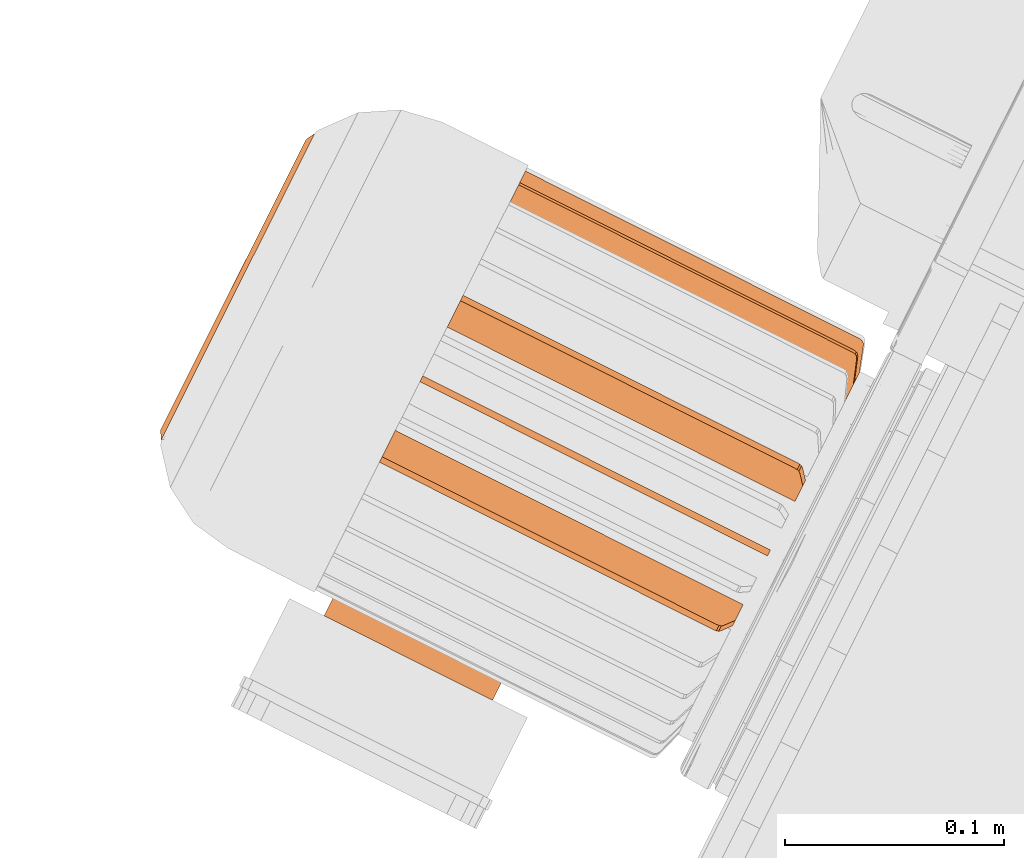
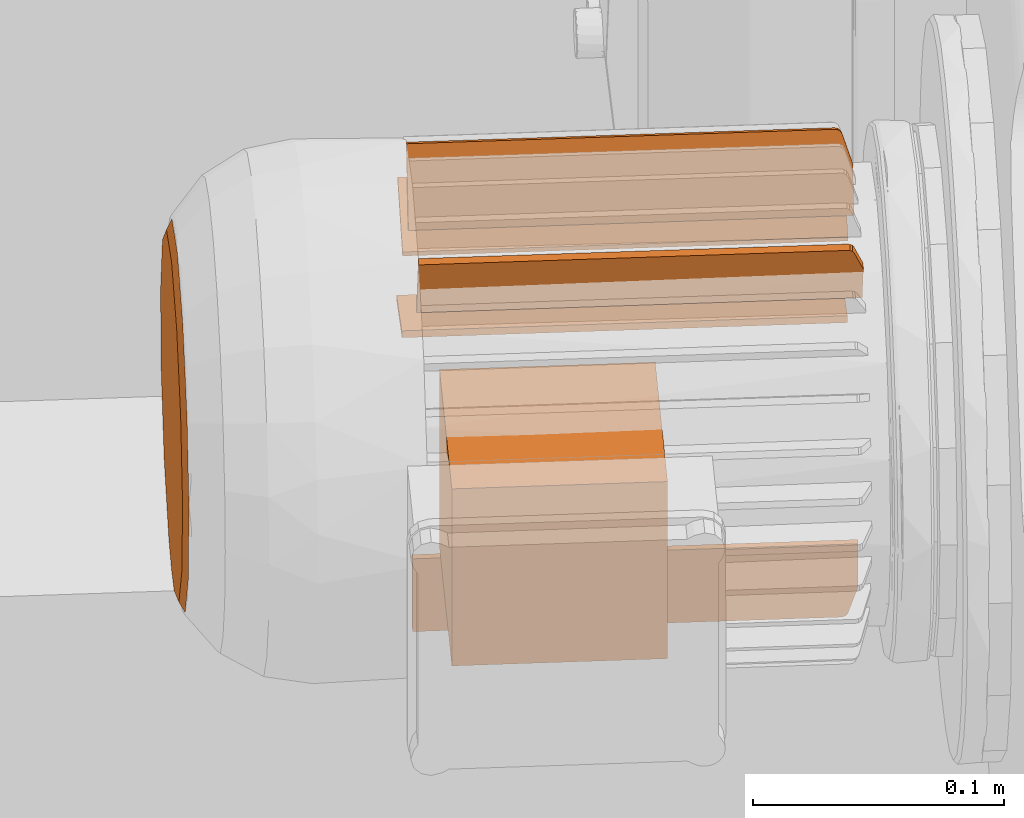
# One storey, part 176 of 206: 7 proxies.
"""IFC2X3 building model written with IfcOpenShell, lengths in metres."""

from ifc_helpers import new_model, si_unit, derived_unit, direction, frame, origin, place, context, subcontext, project, spatial, faceted_brep, source, transform, mapped, material, type_object, type_shapes, element, save


model = new_model("IFC2X3")

# Units and contexts
model_context = context("Model", 3, precision=5.2338327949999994e-05, world=origin(), true_north=direction((0.0, 1.0)))
body_context = subcontext(model_context, "Body", "Model", "MODEL_VIEW")
ifc_project = project(units=[si_unit("LENGTHUNIT", "METRE"), si_unit("AREAUNIT", "SQUARE_METRE"), si_unit("VOLUMEUNIT", "CUBIC_METRE"), si_unit("MASSUNIT", "GRAM", prefix="KILO"), si_unit("PLANEANGLEUNIT", "RADIAN"), derived_unit("THERMALTRANSMITTANCEUNIT", [(si_unit("MASSUNIT", "GRAM", prefix="KILO"), 1), (si_unit("THERMODYNAMICTEMPERATUREUNIT", "KELVIN"), -1), (si_unit("TIMEUNIT", "SECOND"), -3)])], contexts=[model_context])

# Site, building, storey
site_placement = place(None, frame((0.0, 0.0, 0.0), z_axis=(0.0, 0.0, 1.0), x_axis=(0.8939966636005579, -0.4480736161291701, 0.0)))
site = spatial("IfcSite", under=ifc_project, at=site_placement, Name="Default", CompositionType="ELEMENT")
building_placement = place(site_placement, origin())
building = spatial("IfcBuilding", under=site, at=building_placement, CompositionType="ELEMENT")
storey_placement = place(building_placement, origin())
storey = spatial("IfcBuildingStorey", under=building, at=storey_placement, Name="Erdgeschoss", CompositionType="ELEMENT", Elevation=0.0)

# Proxies
ifc_material = material(Name="IfcSurfaceStyle #623543")
building_element_proxy_type_1 = type_object("IfcBuildingElementProxyType", Name="BuildingElementProxy 33:BuildingElementProxy 33", PredefinedType="NOTDEFINED", material=ifc_material)
shared_shape_1 = source(origin(), body_context, "Body", "Brep", [
    faceted_brep([(21.03727812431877, 4.198958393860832, 0.7659323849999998), (21.03727812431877, 4.162276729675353, 0.7568911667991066), (21.03727812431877, 4.235640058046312, 0.7568911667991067), (21.03727812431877, 4.263918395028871, 0.7318387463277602), (21.03727812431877, 4.133998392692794, 0.7318387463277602), (21.03727812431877, 4.277315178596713, 0.6965143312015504), (21.03727812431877, 4.120601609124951, 0.6965143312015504), (21.03727812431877, 4.272761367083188, 0.6590103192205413), (21.03727812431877, 4.125155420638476, 0.6590103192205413), (21.03727812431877, 4.2513001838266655, 0.6279184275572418), (21.03727812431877, 4.146616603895, 0.6279184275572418), (21.03727812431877, 4.217848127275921, 0.6103614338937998), (21.03727812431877, 4.180068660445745, 0.6103614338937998), (21.03727812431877, 4.198958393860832, 0.6080678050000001), (21.034947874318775, 4.233669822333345, 0.7531371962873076), (21.034947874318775, 4.260429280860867, 0.7294303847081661), (21.03493003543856, 4.198958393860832, 0.6870000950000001), (21.034947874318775, 4.268797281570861, 0.6605136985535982), (21.034947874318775, 4.248488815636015, 0.6310918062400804), (21.034947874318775, 4.216833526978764, 0.6144778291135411), (21.034947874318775, 4.198958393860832, 0.6123073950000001), (21.034947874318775, 4.181083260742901, 0.6144778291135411), (21.034947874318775, 4.14942797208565, 0.6310918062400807), (21.034947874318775, 4.124810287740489, 0.6960033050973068), (21.034947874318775, 4.137487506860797, 0.7294303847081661), (21.034947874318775, 4.273106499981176, 0.6960033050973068), (21.034947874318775, 4.198958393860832, 0.7616927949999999), (21.034947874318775, 4.164246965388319, 0.7531371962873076), (21.034947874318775, 4.129119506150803, 0.6605136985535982)], [[[0, 1, 2]], [[2, 1, 3]], [[1, 4, 3]], [[3, 4, 5]], [[4, 6, 5]], [[5, 6, 7]], [[6, 8, 7]], [[7, 8, 9]], [[8, 10, 9]], [[9, 10, 11]], [[10, 12, 11]], [[11, 12, 13]], [[14, 15, 16]], [[17, 18, 16]], [[18, 19, 16]], [[19, 20, 16]], [[16, 20, 21]], [[21, 22, 16]], [[23, 24, 16]], [[17, 16, 25]], [[26, 16, 27]], [[23, 16, 28]], [[16, 26, 14]], [[16, 15, 25]], [[28, 16, 22]], [[27, 16, 24]], [[20, 19, 11]], [[11, 19, 18]], [[11, 18, 9]], [[9, 18, 17]], [[9, 17, 7]], [[7, 17, 25]], [[7, 25, 5]], [[5, 25, 15]], [[5, 15, 3]], [[3, 15, 14]], [[3, 14, 2]], [[2, 14, 26]], [[2, 26, 0]], [[0, 26, 27]], [[0, 27, 1]], [[1, 27, 24]], [[1, 24, 4]], [[4, 24, 23]], [[4, 23, 6]], [[6, 23, 28]], [[6, 28, 8]], [[8, 28, 22]], [[8, 22, 10]], [[10, 22, 21]], [[10, 21, 12]], [[12, 21, 13]], [[11, 13, 20]], [[20, 13, 21]]]),
])
type_shapes(building_element_proxy_type_1, [shared_shape_1])
proxy_1_placement = place(storey_placement, origin())
element("IfcBuildingElementProxy", 1, at=proxy_1_placement, inside=storey, type_object=building_element_proxy_type_1, material=ifc_material, Name="BuildingElementProxy 33", context=body_context, shape_type="MappedRepresentation", body=[
    mapped(shared_shape_1, transform((0.0, 0.0, 0.0), scale=1.0)),
])
building_element_proxy_type_2 = type_object("IfcBuildingElementProxyType", Name="BuildingElementProxy 44:BuildingElementProxy 44", PredefinedType="NOTDEFINED", material=ifc_material)
shared_shape_2 = source(origin(), body_context, "Body", "Brep", [
    faceted_brep([(21.308483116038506, 4.266479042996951, 0.7133444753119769), (21.308483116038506, 4.28584397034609, 0.7213656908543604), (21.308483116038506, 4.265330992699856, 0.7161161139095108), (21.308483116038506, 4.284695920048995, 0.7241373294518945), (21.304532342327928, 4.2972274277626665, 0.726080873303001), (21.301675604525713, 4.299152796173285, 0.7268783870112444), (21.130911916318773, 4.266479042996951, 0.7133444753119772), (21.130911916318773, 4.299152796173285, 0.7268783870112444), (21.302899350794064, 4.298911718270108, 0.7267785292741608), (21.303910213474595, 4.2982304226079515, 0.7264963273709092), (21.130911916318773, 4.265330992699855, 0.7161161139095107), (21.130911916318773, 4.29800474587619, 0.7296500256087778), (21.301675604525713, 4.29800474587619, 0.7296500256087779), (21.302899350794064, 4.297763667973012, 0.7295501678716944), (21.303910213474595, 4.2970823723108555, 0.7292679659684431), (21.304532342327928, 4.29607937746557, 0.7288525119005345)], [[[0, 1, 2]], [[2, 1, 3]], [[4, 1, 5]], [[5, 1, 0]], [[5, 0, 6]], [[6, 7, 5]], [[5, 8, 4]], [[4, 8, 9]], [[0, 2, 6]], [[6, 2, 10]], [[7, 6, 11]], [[11, 6, 10]], [[7, 11, 5]], [[5, 11, 12]], [[12, 13, 5]], [[5, 13, 8]], [[13, 14, 8]], [[8, 14, 9]], [[14, 15, 9]], [[9, 15, 4]], [[3, 1, 15]], [[15, 1, 4]], [[10, 2, 12]], [[12, 2, 3]], [[12, 3, 15]], [[14, 13, 15]], [[15, 13, 12]], [[12, 11, 10]]]),
])
type_shapes(building_element_proxy_type_2, [shared_shape_2])
proxy_2_placement = place(storey_placement, origin())
element("IfcBuildingElementProxy", 2, at=proxy_2_placement, inside=storey, type_object=building_element_proxy_type_2, material=ifc_material, Name="BuildingElementProxy 44", context=body_context, shape_type="MappedRepresentation", body=[
    mapped(shared_shape_2, transform((0.0, 0.0, 0.0), scale=1.0)),
])
building_element_proxy_type_3 = type_object("IfcBuildingElementProxyType", Name="BuildingElementProxy 47:BuildingElementProxy 47", PredefinedType="NOTDEFINED", material=ifc_material)
shared_shape_3 = source(origin(), body_context, "Body", "Brep", [
    faceted_brep([(21.308483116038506, 4.228074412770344, 0.7533726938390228), (21.308483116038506, 4.236095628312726, 0.772737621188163), (21.308483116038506, 4.2253027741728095, 0.7545207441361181), (21.308483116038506, 4.233323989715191, 0.7738856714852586), (21.304532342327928, 4.240810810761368, 0.7841210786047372), (21.301675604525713, 4.241608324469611, 0.7860464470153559), (21.130911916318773, 4.228074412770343, 0.7533726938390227), (21.130911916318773, 4.241608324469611, 0.7860464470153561), (21.302899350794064, 4.241508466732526, 0.785805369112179), (21.303910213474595, 4.241226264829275, 0.7851240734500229), (21.130911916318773, 4.2253027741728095, 0.7545207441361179), (21.130911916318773, 4.238836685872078, 0.787194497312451), (21.301675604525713, 4.238836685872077, 0.7871944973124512), (21.302899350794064, 4.238736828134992, 0.7869534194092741), (21.303910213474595, 4.238454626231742, 0.7862721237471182), (21.304532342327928, 4.238039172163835, 0.785269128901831)], [[[0, 1, 2]], [[2, 1, 3]], [[4, 1, 5]], [[5, 1, 0]], [[5, 0, 6]], [[6, 7, 5]], [[5, 8, 4]], [[4, 8, 9]], [[0, 2, 6]], [[6, 2, 10]], [[7, 6, 11]], [[11, 6, 10]], [[7, 11, 5]], [[5, 11, 12]], [[12, 13, 5]], [[5, 13, 8]], [[13, 14, 8]], [[8, 14, 9]], [[14, 15, 9]], [[9, 15, 4]], [[3, 1, 15]], [[15, 1, 4]], [[10, 2, 12]], [[12, 2, 3]], [[12, 3, 15]], [[14, 13, 15]], [[15, 13, 12]], [[12, 11, 10]]]),
])
type_shapes(building_element_proxy_type_3, [shared_shape_3])
proxy_3_placement = place(storey_placement, origin())
element("IfcBuildingElementProxy", 3, at=proxy_3_placement, inside=storey, type_object=building_element_proxy_type_3, material=ifc_material, Name="BuildingElementProxy 47", context=body_context, shape_type="MappedRepresentation", body=[
    mapped(shared_shape_3, transform((0.0, 0.0, 0.0), scale=1.0)),
])
building_element_proxy_type_4 = type_object("IfcBuildingElementProxyType", Name="BuildingElementProxy 50:BuildingElementProxy 50", PredefinedType="NOTDEFINED", material=ifc_material)
shared_shape_4 = source(origin(), body_context, "Body", "Brep", [
    faceted_brep([(21.308483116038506, 4.269735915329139, 0.6713921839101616), (21.308483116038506, 4.290293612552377, 0.6673030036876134), (21.308483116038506, 4.270321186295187, 0.6743345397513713), (21.308483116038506, 4.290878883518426, 0.6702453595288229), (21.304532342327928, 4.302378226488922, 0.6648992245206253), (21.301675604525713, 4.304422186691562, 0.6644926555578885), (21.130911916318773, 4.269735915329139, 0.6713921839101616), (21.130911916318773, 4.304422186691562, 0.6644926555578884), (21.302899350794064, 4.304166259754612, 0.6645435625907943), (21.303910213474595, 4.3034430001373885, 0.6646874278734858), (21.130911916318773, 4.270321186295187, 0.6743345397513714), (21.130911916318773, 4.305007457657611, 0.6674350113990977), (21.301675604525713, 4.30500745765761, 0.6674350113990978), (21.302899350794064, 4.304751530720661, 0.6674859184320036), (21.303910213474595, 4.304028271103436, 0.6676297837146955), (21.304532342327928, 4.302963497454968, 0.667841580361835)], [[[0, 1, 2]], [[2, 1, 3]], [[4, 1, 5]], [[5, 1, 0]], [[5, 0, 6]], [[6, 7, 5]], [[5, 8, 4]], [[4, 8, 9]], [[0, 2, 6]], [[6, 2, 10]], [[7, 6, 11]], [[11, 6, 10]], [[7, 11, 5]], [[5, 11, 12]], [[12, 13, 5]], [[5, 13, 8]], [[13, 14, 8]], [[8, 14, 9]], [[14, 15, 9]], [[9, 15, 4]], [[3, 1, 15]], [[15, 1, 4]], [[10, 2, 12]], [[12, 2, 3]], [[12, 3, 15]], [[14, 13, 15]], [[15, 13, 12]], [[12, 11, 10]]]),
])
type_shapes(building_element_proxy_type_4, [shared_shape_4])
proxy_4_placement = place(storey_placement, origin())
element("IfcBuildingElementProxy", 4, at=proxy_4_placement, inside=storey, type_object=building_element_proxy_type_4, material=ifc_material, Name="BuildingElementProxy 50", context=body_context, shape_type="MappedRepresentation", body=[
    mapped(shared_shape_4, transform((0.0, 0.0, 0.0), scale=1.0)),
])
building_element_proxy_type_5 = type_object("IfcBuildingElementProxyType", Name="BuildingElementProxy 51:BuildingElementProxy 51", PredefinedType="NOTDEFINED", material=ifc_material)
shared_shape_5 = source(origin(), body_context, "Body", "Brep", [
    faceted_brep([(21.139730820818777, 4.082322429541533, 0.7286238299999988), (21.139730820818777, 4.082322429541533, 0.64262383), (21.22573082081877, 4.082322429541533, 0.7286238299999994), (21.22573082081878, 4.082322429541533, 0.6426238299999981), (21.139730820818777, 4.165331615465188, 0.7286238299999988), (21.139730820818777, 4.165331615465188, 0.6426238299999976), (21.22573082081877, 4.165331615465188, 0.7286238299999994), (21.22573082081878, 4.165331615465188, 0.6426238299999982)], [[[0, 1, 2]], [[2, 1, 3]], [[0, 4, 1]], [[1, 4, 5]], [[2, 6, 0]], [[0, 6, 4]], [[5, 4, 7]], [[7, 4, 6]], [[3, 7, 2]], [[2, 7, 6]], [[1, 5, 3]], [[3, 5, 7]]]),
])
type_shapes(building_element_proxy_type_5, [shared_shape_5])
proxy_5_placement = place(storey_placement, origin())
element("IfcBuildingElementProxy", 5, at=proxy_5_placement, inside=storey, type_object=building_element_proxy_type_5, material=ifc_material, Name="BuildingElementProxy 51", context=body_context, shape_type="MappedRepresentation", body=[
    mapped(shared_shape_5, transform((0.0, 0.0, 0.0), scale=1.0)),
])
building_element_proxy_type_6 = type_object("IfcBuildingElementProxyType", Name="BuildingElementProxy 52:BuildingElementProxy 52", PredefinedType="NOTDEFINED", material=ifc_material)
shared_shape_6 = source(origin(), body_context, "Body", "Brep", [
    faceted_brep([(21.308483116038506, 4.197458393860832, 0.6145375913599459), (21.308483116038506, 4.197458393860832, 0.5935771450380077), (21.308483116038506, 4.200458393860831, 0.6145375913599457), (21.308483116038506, 4.200458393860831, 0.5935771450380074), (21.304532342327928, 4.19745839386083, 0.581255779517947), (21.301675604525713, 4.197458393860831, 0.579171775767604), (21.130911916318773, 4.197458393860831, 0.6145375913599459), (21.130911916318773, 4.197458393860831, 0.579171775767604), (21.302899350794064, 4.197458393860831, 0.5794327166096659), (21.303910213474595, 4.197458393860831, 0.5801701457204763), (21.130911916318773, 4.200458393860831, 0.6145375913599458), (21.130911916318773, 4.20045839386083, 0.5791717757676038), (21.301675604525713, 4.20045839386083, 0.5791717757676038), (21.302899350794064, 4.200458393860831, 0.5794327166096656), (21.303910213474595, 4.200458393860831, 0.5801701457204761), (21.304532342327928, 4.20045839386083, 0.5812557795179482)], [[[0, 1, 2]], [[2, 1, 3]], [[4, 1, 5]], [[5, 1, 0]], [[5, 0, 6]], [[6, 7, 5]], [[5, 8, 4]], [[4, 8, 9]], [[0, 2, 6]], [[6, 2, 10]], [[7, 6, 11]], [[11, 6, 10]], [[7, 11, 5]], [[5, 11, 12]], [[12, 13, 5]], [[5, 13, 8]], [[13, 14, 8]], [[8, 14, 9]], [[14, 15, 9]], [[9, 15, 4]], [[3, 1, 15]], [[15, 1, 4]], [[10, 2, 12]], [[12, 2, 3]], [[12, 3, 15]], [[14, 13, 15]], [[15, 13, 12]], [[12, 11, 10]]]),
])
type_shapes(building_element_proxy_type_6, [shared_shape_6])
proxy_6_placement = place(storey_placement, origin())
element("IfcBuildingElementProxy", 6, at=proxy_6_placement, inside=storey, type_object=building_element_proxy_type_6, material=ifc_material, Name="BuildingElementProxy 52", context=body_context, shape_type="MappedRepresentation", body=[
    mapped(shared_shape_6, transform((0.0, 0.0, 0.0), scale=1.0)),
])
building_element_proxy_type_7 = type_object("IfcBuildingElementProxyType", Name="BuildingElementProxy 55:BuildingElementProxy 55", PredefinedType="NOTDEFINED", material=ifc_material)
shared_shape_7 = source(origin(), body_context, "Body", "Brep", [
    faceted_brep([(21.308483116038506, 4.172614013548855, 0.7545207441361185), (21.308483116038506, 4.164592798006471, 0.7738856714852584), (21.308483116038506, 4.169842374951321, 0.7533726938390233), (21.308483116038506, 4.161821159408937, 0.7727376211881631), (21.304532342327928, 4.15987761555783, 0.7852691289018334), (21.301675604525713, 4.159080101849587, 0.7871944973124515), (21.130911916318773, 4.172614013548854, 0.7545207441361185), (21.130911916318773, 4.159080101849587, 0.7871944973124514), (21.302899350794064, 4.1591799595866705, 0.7869534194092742), (21.303910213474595, 4.159462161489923, 0.7862721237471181), (21.130911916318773, 4.169842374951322, 0.7533726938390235), (21.130911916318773, 4.156308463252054, 0.7860464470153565), (21.301675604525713, 4.156308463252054, 0.7860464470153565), (21.302899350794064, 4.156408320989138, 0.7858053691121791), (21.303910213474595, 4.156690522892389, 0.7851240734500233), (21.304532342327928, 4.157105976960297, 0.7841210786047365)], [[[0, 1, 2]], [[2, 1, 3]], [[4, 1, 5]], [[5, 1, 0]], [[5, 0, 6]], [[6, 7, 5]], [[5, 8, 4]], [[4, 8, 9]], [[0, 2, 6]], [[6, 2, 10]], [[7, 6, 11]], [[11, 6, 10]], [[7, 11, 5]], [[5, 11, 12]], [[12, 13, 5]], [[5, 13, 8]], [[13, 14, 8]], [[8, 14, 9]], [[14, 15, 9]], [[9, 15, 4]], [[3, 1, 15]], [[15, 1, 4]], [[10, 2, 12]], [[12, 2, 3]], [[12, 3, 15]], [[14, 13, 15]], [[15, 13, 12]], [[12, 11, 10]]]),
])
type_shapes(building_element_proxy_type_7, [shared_shape_7])
proxy_7_placement = place(storey_placement, origin())
element("IfcBuildingElementProxy", 7, at=proxy_7_placement, inside=storey, type_object=building_element_proxy_type_7, material=ifc_material, Name="BuildingElementProxy 55", context=body_context, shape_type="MappedRepresentation", body=[
    mapped(shared_shape_7, transform((0.0, 0.0, 0.0), scale=1.0)),
])

save(model, "model.ifc")
